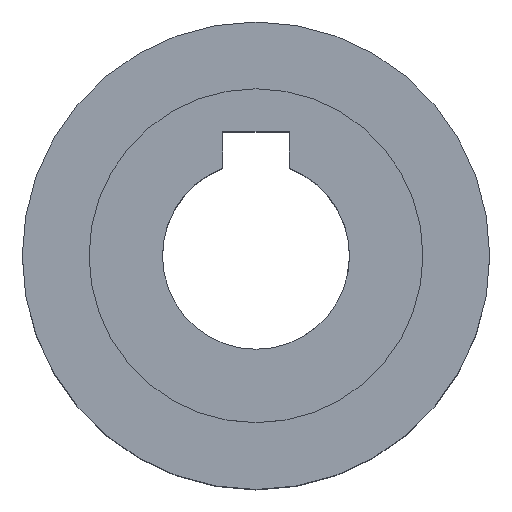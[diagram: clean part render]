
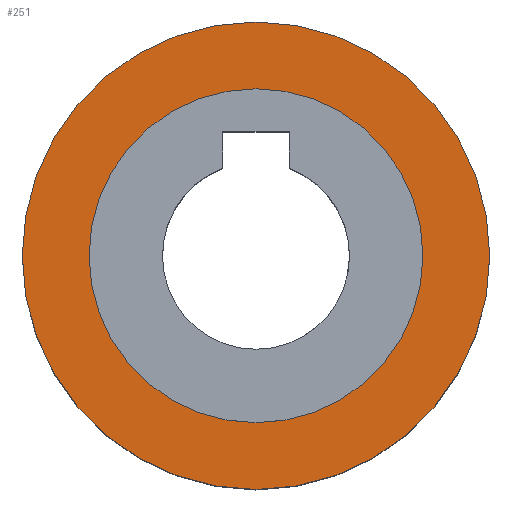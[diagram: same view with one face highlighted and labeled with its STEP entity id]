
A CAD part, top view. The second image highlights one B-rep face of the part: STEP entity #251.
In plain terms, the highlighted planar face has unit normal (0, 0, 1) as drawn and (0, 0, -1) by its records, which use the part's own axes.
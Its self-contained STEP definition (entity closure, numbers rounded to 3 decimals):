
#251=ADVANCED_FACE('',(#1541,#1543),#1545,.T.);
#1541=FACE_BOUND('',#1542,.T.);
#1542=EDGE_LOOP('',(#2764));
#1543=FACE_BOUND('',#1544,.T.);
#1544=EDGE_LOOP('',(#2765));
#1545=PLANE('',#1546);
#1546=AXIS2_PLACEMENT_3D('',#1547,#1548,#1549);
#1547=CARTESIAN_POINT('',(0.,0.,10.5));
#1548=DIRECTION('',(-0.,-0.,-1.));
#1549=DIRECTION('',(-1.,0.,0.));
#2764=ORIENTED_EDGE('',*,*,#3547,.F.);
#2765=ORIENTED_EDGE('',*,*,#3294,.T.);
#3294=EDGE_CURVE('',#3743,#3743,#3744,.T.);
#3547=EDGE_CURVE('',#4241,#4241,#4242,.F.);
#3743=VERTEX_POINT('',#4856);
#3744=CIRCLE('',#4857,12.5);
#4241=VERTEX_POINT('',#6217);
#4242=CIRCLE('',#6218,17.5);
#4856=CARTESIAN_POINT('',(-12.5,0.,10.5));
#4857=AXIS2_PLACEMENT_3D('',#4858,#4859,#4860);
#4858=CARTESIAN_POINT('',(0.,0.,10.5));
#4859=DIRECTION('',(-0.,-0.,-1.));
#4860=DIRECTION('',(-1.,0.,0.));
#6217=CARTESIAN_POINT('',(17.5,0.,10.5));
#6218=AXIS2_PLACEMENT_3D('',#6219,#6220,#6221);
#6219=CARTESIAN_POINT('',(0.,0.,10.5));
#6220=DIRECTION('',(0.,0.,1.));
#6221=DIRECTION('',(1.,0.,0.));
